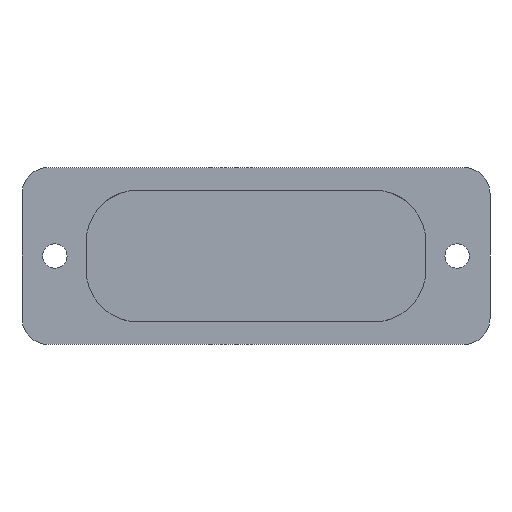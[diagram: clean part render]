
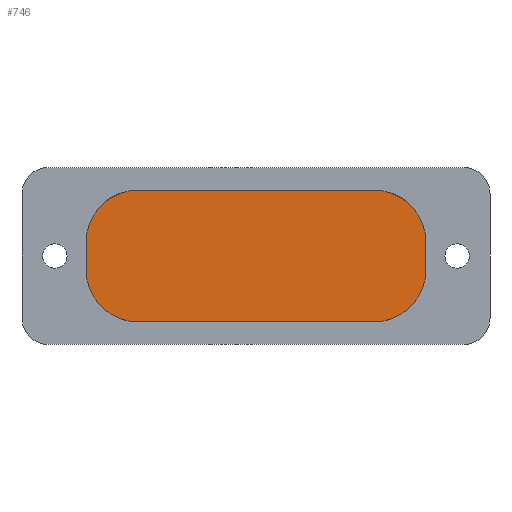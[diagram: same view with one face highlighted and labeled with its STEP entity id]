
A CAD part, front view. The second image highlights one B-rep face of the part: STEP entity #746.
In plain terms, the highlighted planar face has unit normal (0, -1, 0).
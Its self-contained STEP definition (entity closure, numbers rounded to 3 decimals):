
#50=PLANE('',#828);
#90=FACE_OUTER_BOUND('',#141,.T.);
#141=EDGE_LOOP('',(#647,#648,#649,#650,#651,#652,#653,#654));
#176=LINE('',#1178,#236);
#205=LINE('',#1316,#265);
#206=LINE('',#1319,#266);
#207=LINE('',#1320,#267);
#236=VECTOR('',#927,34.);
#265=VECTOR('',#1040,4.);
#266=VECTOR('',#1043,34.);
#267=VECTOR('',#1044,4.);
#288=CIRCLE('',#789,7.5);
#297=CIRCLE('',#802,7.5);
#299=CIRCLE('',#808,7.5);
#310=CIRCLE('',#829,7.5);
#341=VERTEX_POINT('',#1175);
#342=VERTEX_POINT('',#1177);
#345=VERTEX_POINT('',#1185);
#357=VERTEX_POINT('',#1240);
#358=VERTEX_POINT('',#1242);
#361=VERTEX_POINT('',#1254);
#381=VERTEX_POINT('',#1315);
#382=VERTEX_POINT('',#1317);
#426=EDGE_CURVE('',#342,#341,#176,.T.);
#431=EDGE_CURVE('',#345,#341,#288,.T.);
#444=EDGE_CURVE('',#357,#358,#297,.T.);
#449=EDGE_CURVE('',#342,#361,#299,.T.);
#480=EDGE_CURVE('',#345,#381,#205,.T.);
#481=EDGE_CURVE('',#382,#381,#310,.T.);
#482=EDGE_CURVE('',#382,#358,#206,.T.);
#483=EDGE_CURVE('',#357,#361,#207,.T.);
#647=ORIENTED_EDGE('',*,*,#431,.F.);
#648=ORIENTED_EDGE('',*,*,#480,.T.);
#649=ORIENTED_EDGE('',*,*,#481,.F.);
#650=ORIENTED_EDGE('',*,*,#482,.T.);
#651=ORIENTED_EDGE('',*,*,#444,.F.);
#652=ORIENTED_EDGE('',*,*,#483,.T.);
#653=ORIENTED_EDGE('',*,*,#449,.F.);
#654=ORIENTED_EDGE('',*,*,#426,.T.);
#746=ADVANCED_FACE('',(#90),#50,.T.);
#789=AXIS2_PLACEMENT_3D('',#1187,#935,#936);
#802=AXIS2_PLACEMENT_3D('',#1243,#963,#964);
#808=AXIS2_PLACEMENT_3D('',#1255,#978,#979);
#828=AXIS2_PLACEMENT_3D('',#1314,#1038,#1039);
#829=AXIS2_PLACEMENT_3D('',#1318,#1041,#1042);
#927=DIRECTION('',(-1.,0.,0.));
#935=DIRECTION('center_axis',(0.,1.,0.));
#936=DIRECTION('ref_axis',(-0.707,0.,0.707));
#963=DIRECTION('center_axis',(0.,1.,0.));
#964=DIRECTION('ref_axis',(0.707,0.,-0.707));
#978=DIRECTION('center_axis',(0.,1.,0.));
#979=DIRECTION('ref_axis',(0.707,0.,0.707));
#1038=DIRECTION('center_axis',(0.,-1.,0.));
#1039=DIRECTION('ref_axis',(0.,0.,-1.));
#1040=DIRECTION('',(0.,0.,-1.));
#1041=DIRECTION('center_axis',(0.,1.,0.));
#1042=DIRECTION('ref_axis',(-0.707,0.,-0.707));
#1043=DIRECTION('',(1.,0.,0.));
#1044=DIRECTION('',(0.,0.,1.));
#1175=CARTESIAN_POINT('',(-17.,-57.,9.5));
#1177=CARTESIAN_POINT('',(17.,-57.,9.5));
#1178=CARTESIAN_POINT('',(-24.5,-57.,9.5));
#1185=CARTESIAN_POINT('',(-24.5,-57.,2.));
#1187=CARTESIAN_POINT('Origin',(-17.,-57.,2.));
#1240=CARTESIAN_POINT('',(24.5,-57.,-2.));
#1242=CARTESIAN_POINT('',(17.,-57.,-9.5));
#1243=CARTESIAN_POINT('Origin',(17.,-57.,-2.));
#1254=CARTESIAN_POINT('',(24.5,-57.,2.));
#1255=CARTESIAN_POINT('Origin',(17.,-57.,2.));
#1314=CARTESIAN_POINT('Origin',(3.861,-57.,3.861));
#1315=CARTESIAN_POINT('',(-24.5,-57.,-2.));
#1316=CARTESIAN_POINT('',(-24.5,-57.,-9.5));
#1317=CARTESIAN_POINT('',(-17.,-57.,-9.5));
#1318=CARTESIAN_POINT('Origin',(-17.,-57.,-2.));
#1319=CARTESIAN_POINT('',(24.5,-57.,-9.5));
#1320=CARTESIAN_POINT('',(24.5,-57.,9.5));
